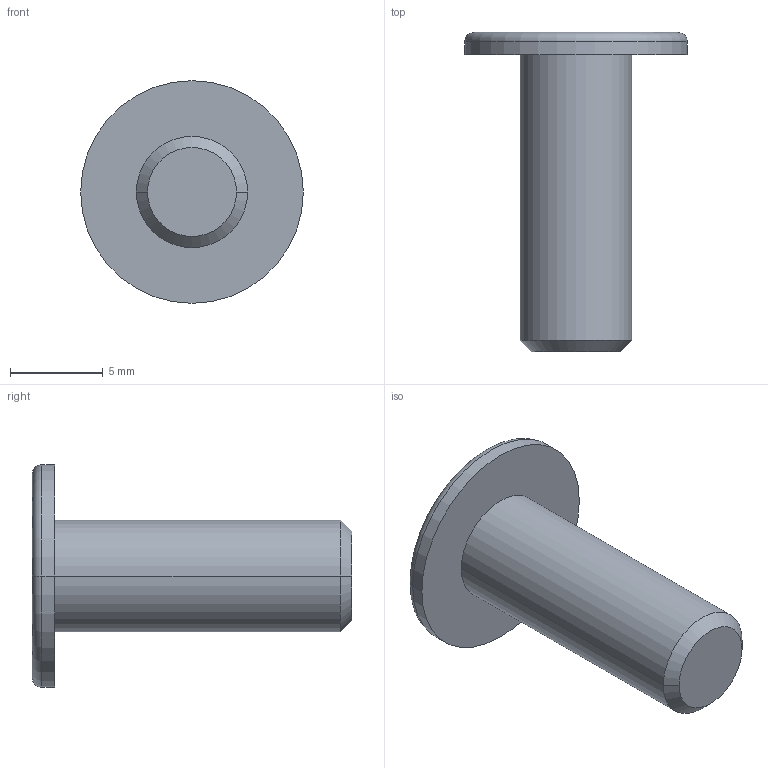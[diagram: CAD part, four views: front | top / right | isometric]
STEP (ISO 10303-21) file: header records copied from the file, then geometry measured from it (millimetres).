
FILE_DESCRIPTION (( 'STEP AP214' ), '1' );
FILE_NAME ('14580.5-M6-16-NI-2.step', '2025-04-28T08:10:48', ( '' ), ( '' ), 'SwSTEP 2.0', 'SolidWorks 2022', '' );
FILE_SCHEMA (( 'AUTOMOTIVE_DESIGN' ));
Length unit declared in the file: millimetre
Products named in the file (1): 14580.5-M6-16-NI-2
Bounding box: 12 x 17.2 x 12 mm (x, y, z)
Volume: 572.2 mm3; surface area: 573.4 mm2
Topology: 1 solids, 1 shells, 27 faces, 65 edges, 42 vertices
Faces by surface type: cylinder 19, plane 4, cone 2, torus 2
Entity records: 867 total; most frequent: DIRECTION 165, CARTESIAN_POINT 135, ORIENTED_EDGE 130, AXIS2_PLACEMENT_3D 72, EDGE_CURVE 65, CIRCLE 44, VERTEX_POINT 42, EDGE_LOOP 29
